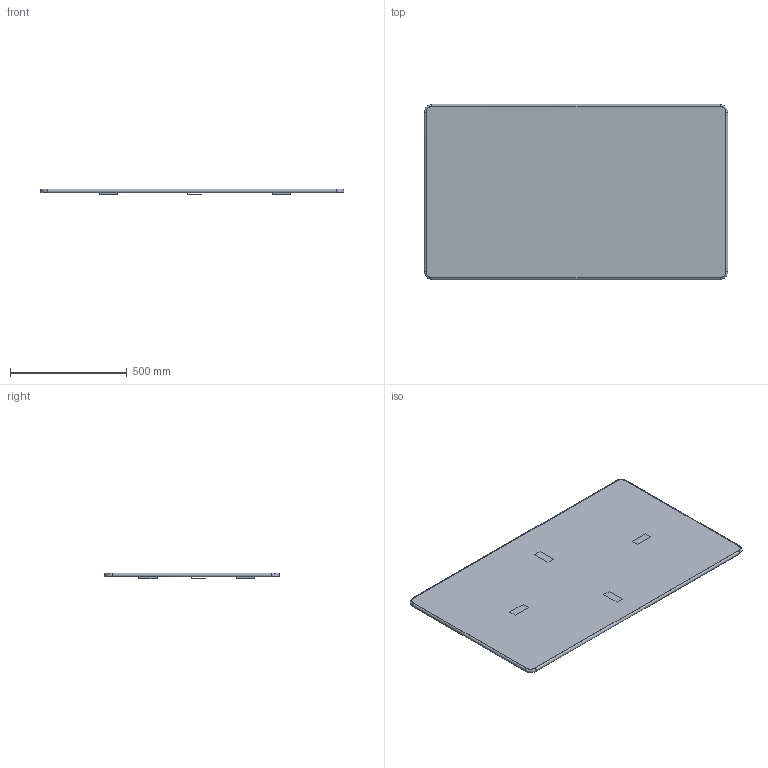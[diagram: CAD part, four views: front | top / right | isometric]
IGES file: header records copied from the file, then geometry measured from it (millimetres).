
Start section: SolidWorks IGES file using NURBS representation for surfaces
Global section: file name: G:\VICCARBE\PRODUCTOS\26-PANELES LAYER\04-MODELADOS (PLANOS)\especiales para 3D\VICCARBE_LayerPanel_1300x750d55.IGS; native system: SolidWorks 2009; preprocessor: SolidWorks 2009; author: RUBEN; date: 110906.115742; units: millimetre
Bounding box: 1301 x 751 x 25.5 mm (x, y, z)
Surface area: 2275915.4 mm2 (no closed solid volume)
Topology: 0 solids, 0 shells, 63 faces, 424 edges, 424 vertices
Faces by surface type: bspline 63
